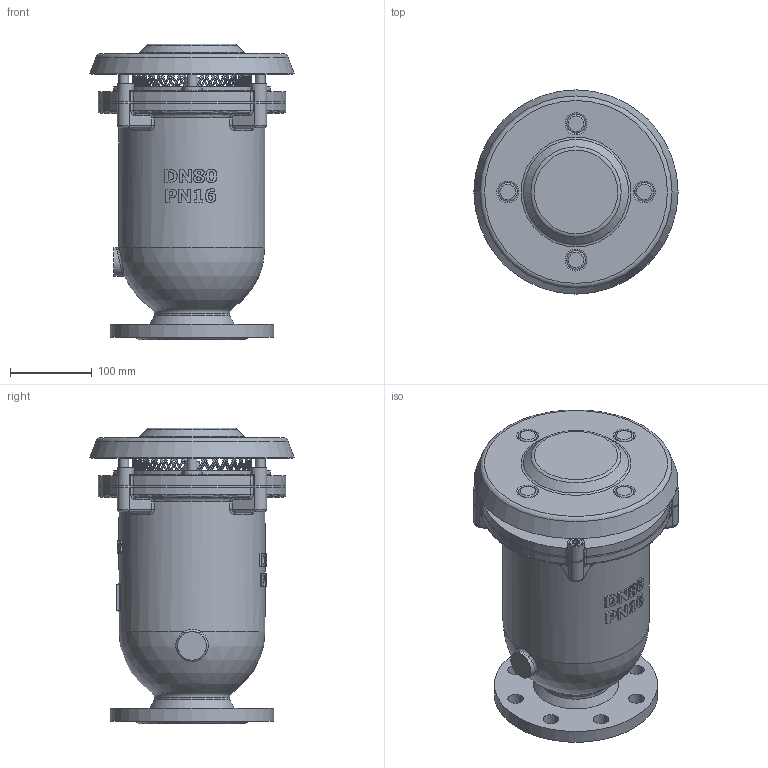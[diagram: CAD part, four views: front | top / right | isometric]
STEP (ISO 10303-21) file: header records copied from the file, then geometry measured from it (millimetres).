
FILE_DESCRIPTION(('STEP AP242'), '1');
FILE_NAME('Âîçäóøíûé êëàïàí DUOJET KX', '', ('UNSPECIFIED'), ('UNSPECIFIED'), 'C3D Converter', 'C3D Toolkit', '');
FILE_SCHEMA(('AP242_MANAGED_MODEL_BASED_3D_ENGINEERING_MIM_LF { 1 0 10303 442 1 1 4 }'));
Length unit declared in the file: millimetre
Assembly tree (29 placements, depth 2):
  (unnamed)
    (unnamed)
    (unnamed)
    (unnamed)
    (unnamed)
    (unnamed)
    (unnamed)
    (unnamed)  x4
    (unnamed)  x4
    (unnamed)
    (unnamed)
    (unnamed)
    (unnamed)  x4
    (unnamed)  x4
    (unnamed)  x4
Bounding box: 250 x 250 x 362 mm (x, y, z)
Volume: 2929039 mm3; surface area: 1160856.1 mm2
Topology: 30 solids, 31 shells, 1459 faces, 3866 edges, 2531 vertices
Faces by surface type: bspline 489, plane 433, cylinder 275, extrusion 152, torus 56, cone 41, sphere 13
Full cylindrical faces by diameter (mm): 5.4 x4, 6 x15, 7 x4, 8 x4, 9 x2, 10 x16, 12 x4, 14 x4, 16 x8, 18.274 x1, 19 x8, 20 x6, 26 x1, 35 x1, 80 x2, 92 x1, 116 x2, 122 x1, 139 x1, 143 x4, 145 x1, 155 x2, 167 x1, 177 x2, 179 x3, 200 x1
Entity records: 130747 total; most frequent: CARTESIAN_POINT 98764, ORIENTED_EDGE 6866, DIRECTION 3836, EDGE_CURVE 3433, VERTEX_POINT 2325, B_SPLINE_CURVE_WITH_KNOTS 2004, EDGE_LOOP 1716, FACE_BOUND 1480
